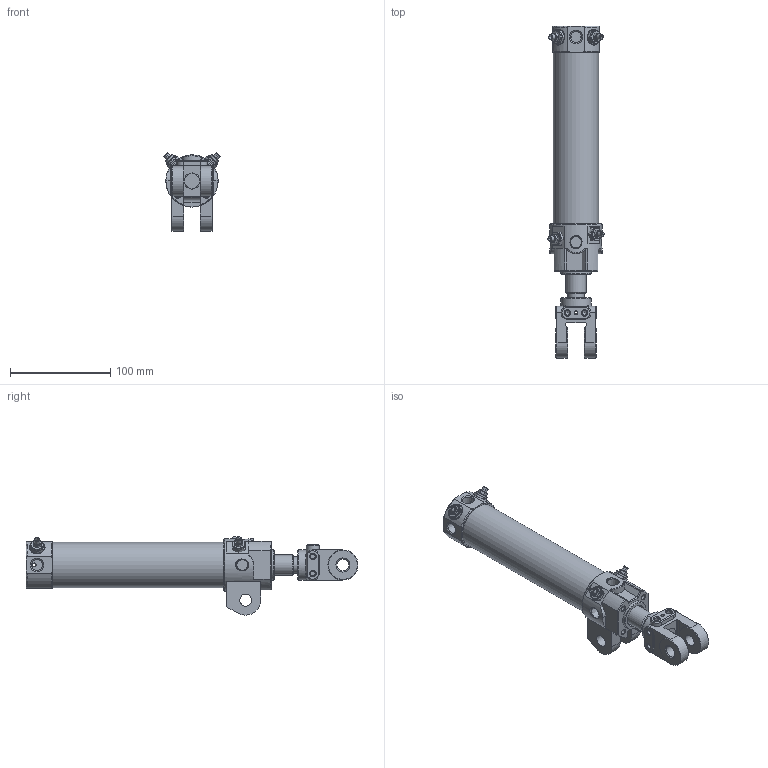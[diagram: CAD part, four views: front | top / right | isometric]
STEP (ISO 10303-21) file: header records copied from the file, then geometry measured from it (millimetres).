
FILE_DESCRIPTION((''),'2;1');
FILE_NAME('I:\3D電子目錄\氣缸\DCK\DCK\DCK-1A-40x125-Y.stp','2008-02-26T11:11:39',('Administrator'),(''),'Autodesk Inventor 11','Autodesk Inventor 11','');
FILE_SCHEMA(('AUTOMOTIVE_DESIGN { 1 0 10303 214 1 1 1 1 }'));
Length unit declared in the file: millimetre
Products named in the file (6): DCK-1A-40-Y; 緩衝針; 緩衝針-1; 緩衝針-201; 緩衝針-3
Assembly tree (8 placements, depth 3):
  DCK-1A-40-Y
    DCK-1A-40-Y
    緩衝針  x4
      緩衝針-1
      緩衝針-201
      緩衝針-3
Bounding box: 56.06 x 331 x 78.02 mm (x, y, z)
Volume: 247212.5 mm3; surface area: 112741.6 mm2
Topology: 15 solids, 15 shells, 731 faces, 1686 edges, 1042 vertices
Faces by surface type: plane 241, cylinder 217, cone 148, bspline 83, torus 40, sphere 2
Full cylindrical faces by diameter (mm): 2 x1, 3 x3, 3.8 x2, 4 x6, 4.6 x4, 5 x8, 5.1 x4, 5.2 x12, 5.5 x4, 7 x1, 7.25 x1, 7.9 x4, 8 x2, 8.3 x1, 10 x2, 12 x4, 12.8 x4, 16 x3, 20 x1, 21 x1, 22 x3, 23 x1, 24.7 x1, 26 x1, 28 x1, 29 x1, 30 x4, 33 x1, 40 x1, 42 x2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
Entity records: 26618 total; most frequent: CARTESIAN_POINT 16491, DIRECTION 1979, ORIENTED_EDGE 1952, EDGE_CURVE 976, AXIS2_PLACEMENT_3D 846, EDGE_LOOP 687, VERTEX_POINT 677, FACE_OUTER_BOUND 480
